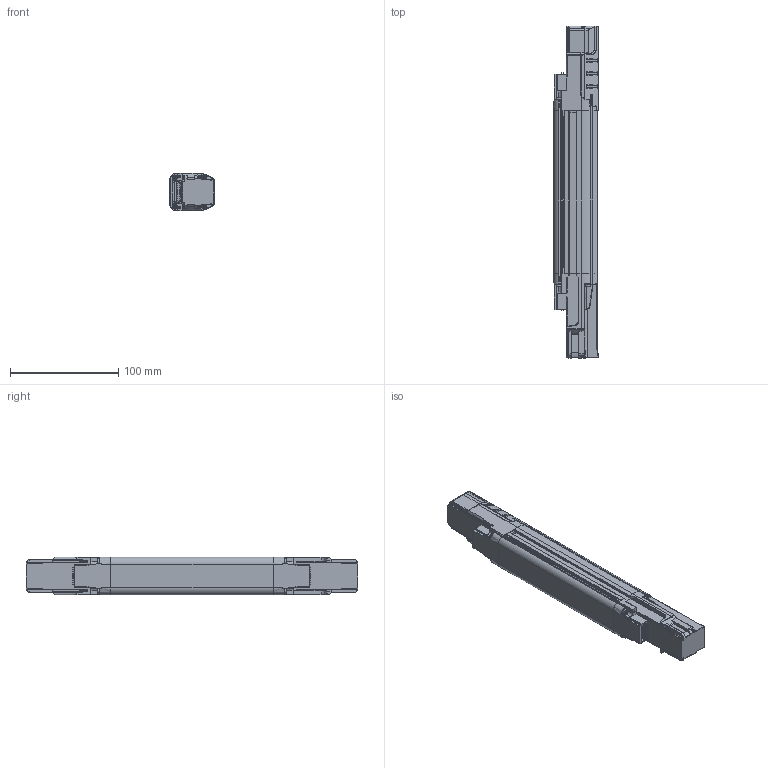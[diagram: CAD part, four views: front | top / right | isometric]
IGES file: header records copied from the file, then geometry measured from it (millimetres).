
Global section: file name: C:\Documents and Settings\LRossetti\Desktop\DIM e DSD mancanti per CD SG2_4b_4E\DSD-0467.igs; native system: NX V7.5; preprocessor: SIEMENS PLM Software NX 7.5; date: 20111111.183524; units: millimetre
Bounding box: 40.75 x 306.2 x 35.02 mm (x, y, z)
Surface area: 55922.9 mm2 (no closed solid volume)
Topology: 0 solids, 0 shells, 1156 faces, 7408 edges, 7350 vertices
Faces by surface type: bspline 1156
